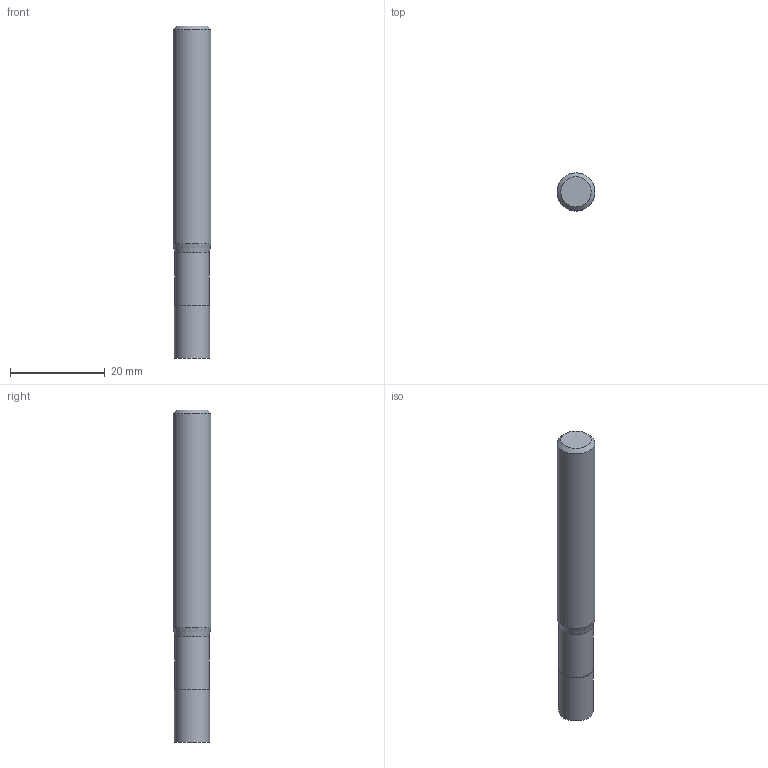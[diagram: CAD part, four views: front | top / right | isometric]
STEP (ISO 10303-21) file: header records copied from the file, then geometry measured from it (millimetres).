
FILE_DESCRIPTION((''),'2;1');
FILE_NAME('C:\Users\nsx150\AppData\Local\Temp\Mastercam 2021\EUJSUNXURU\TEMP.step','2021-04-22T10:29:12',(''),(''),'STEP Write','Mastercam 2021 ... CNC Software, Inc.','');
FILE_SCHEMA(('AUTOMOTIVE_DESIGN'));
Length unit declared in the file: millimetre
Products named in the file (1): None
Bounding box: 8 x 8 x 70 mm (x, y, z)
Volume: 3315.4 mm3; surface area: 1873.5 mm2
Topology: 2 solids, 2 shells, 9 faces, 12 edges, 7 vertices
Faces by surface type: plane 4, cylinder 3, cone 2
Full cylindrical faces by diameter (mm): 7.2 x1, 7.4 x1, 8 x1
Entity records: 211 total; most frequent: DIRECTION 36, CARTESIAN_POINT 25, AXIS2_PLACEMENT_3D 18, ORIENTED_EDGE 14, EDGE_LOOP 14, STYLED_ITEM 12, ADVANCED_FACE 9, FACE_BOUND 8
